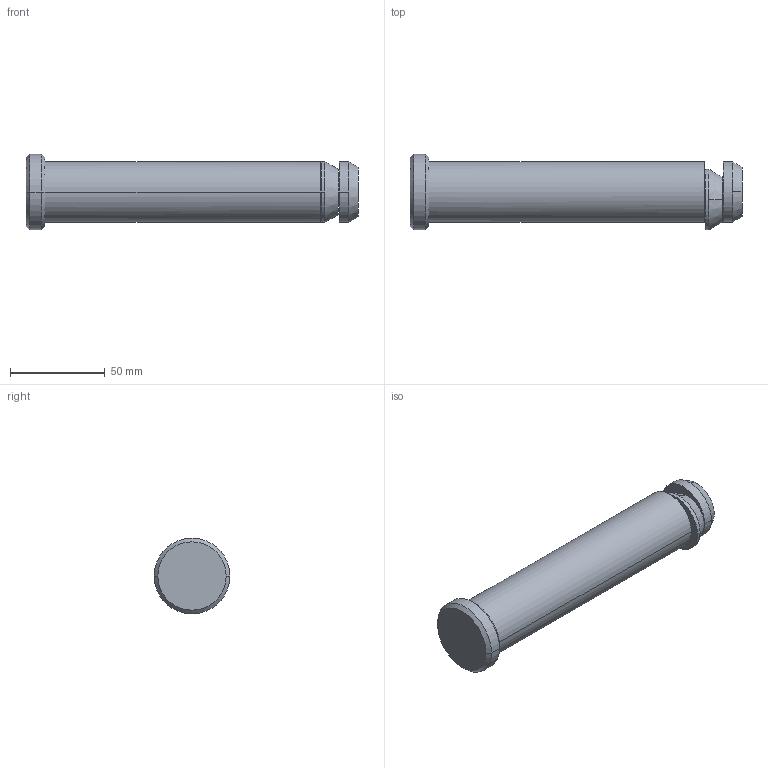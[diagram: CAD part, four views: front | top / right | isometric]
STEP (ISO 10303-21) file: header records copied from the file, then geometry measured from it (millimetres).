
FILE_DESCRIPTION(('CATIA V5 STEP Exchange'),'2;1');
FILE_NAME('C:\Users\Raffaele\Desktop\3D X SITO CF\PERNI -STAFFE SOLLEVAMENTO\395W\395W-032-175.stp','2019-07-05T10:37:31+00:00',('none'),('none'),'CATIA Version 5 Release 20 GA (IN-10)','CATIA V5 STEP AP203','none');
FILE_SCHEMA(('CONFIG_CONTROL_DESIGN'));
Length unit declared in the file: millimetre
Products named in the file (1): 395W-032-175
Bounding box: 175 x 40.01 x 40 mm (x, y, z)
Volume: 140228.3 mm3; surface area: 22608.8 mm2
Topology: 1 solids, 1 shells, 27 faces, 62 edges, 40 vertices
Faces by surface type: cylinder 12, cone 8, plane 7
Entity records: 895 total; most frequent: CARTESIAN_POINT 245, ORIENTED_EDGE 124, DIRECTION 111, AXIS2_PLACEMENT_3D 63, EDGE_CURVE 62, VERTEX_POINT 40, CIRCLE 35, EDGE_LOOP 32
